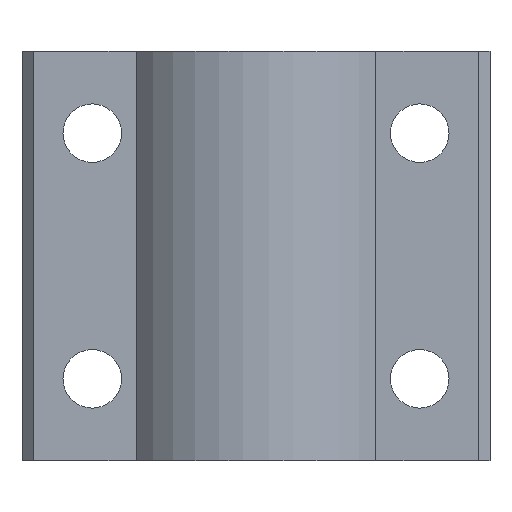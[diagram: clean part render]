
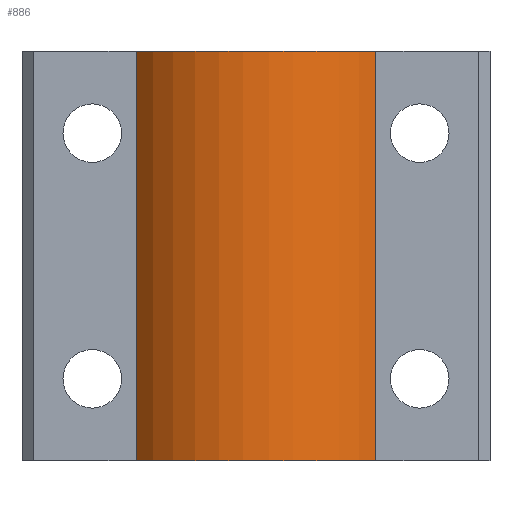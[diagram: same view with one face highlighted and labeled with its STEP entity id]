
A CAD part, front view. The second image highlights one B-rep face of the part: STEP entity #886.
In plain terms, the highlighted cylindrical face has radius 13 mm (diameter 26 mm), a partial arc.
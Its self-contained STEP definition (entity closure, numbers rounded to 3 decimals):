
#689=CARTESIAN_POINT('',(8.884,-6.528,-3.));
#690=VERTEX_POINT('',#689);
#697=CARTESIAN_POINT('',(-11.61,-6.528,-3.));
#698=VERTEX_POINT('',#697);
#699=CARTESIAN_POINT('',(-1.363,1.472,-3.));
#700=DIRECTION('',(0.0,0.0,1.0));
#701=DIRECTION('',(0.788,0.615,0.0));
#702=AXIS2_PLACEMENT_3D('',#699,#700,#701);
#703=CIRCLE('',#702,13.0);
#704=EDGE_CURVE('',#698,#690,#703,.T.);
#835=CARTESIAN_POINT('',(8.884,-6.528,32.0));
#836=VERTEX_POINT('',#835);
#843=CARTESIAN_POINT('',(8.884,-6.528,32.0));
#844=DIRECTION('',(0.0,0.0,-1.0));
#845=VECTOR('',#844,35.);
#846=LINE('',#843,#845);
#847=EDGE_CURVE('',#836,#690,#846,.T.);
#862=CARTESIAN_POINT('',(-1.363,1.472,14.5));
#863=DIRECTION('',(0.0,0.0,1.0));
#864=DIRECTION('',(0.788,0.615,0.0));
#865=AXIS2_PLACEMENT_3D('',#862,#863,#864);
#866=CYLINDRICAL_SURFACE('',#865,13.0);
#867=CARTESIAN_POINT('',(-11.61,-6.528,32.0));
#868=VERTEX_POINT('',#867);
#869=CARTESIAN_POINT('',(-1.363,1.472,32.0));
#870=DIRECTION('',(0.0,0.0,-1.0));
#871=DIRECTION('',(0.788,0.615,0.0));
#872=AXIS2_PLACEMENT_3D('',#869,#870,#871);
#873=CIRCLE('',#872,13.0);
#874=EDGE_CURVE('',#836,#868,#873,.T.);
#875=ORIENTED_EDGE('',*,*,#874,.T.);
#876=CARTESIAN_POINT('',(-11.61,-6.528,32.0));
#877=DIRECTION('',(0.0,0.0,-1.0));
#878=VECTOR('',#877,35.);
#879=LINE('',#876,#878);
#880=EDGE_CURVE('',#868,#698,#879,.T.);
#881=ORIENTED_EDGE('',*,*,#880,.T.);
#882=ORIENTED_EDGE('',*,*,#704,.T.);
#883=ORIENTED_EDGE('',*,*,#847,.F.);
#884=EDGE_LOOP('',(#875,#881,#882,#883));
#885=FACE_OUTER_BOUND('',#884,.T.);
#886=ADVANCED_FACE('',(#885),#866,.T.);
